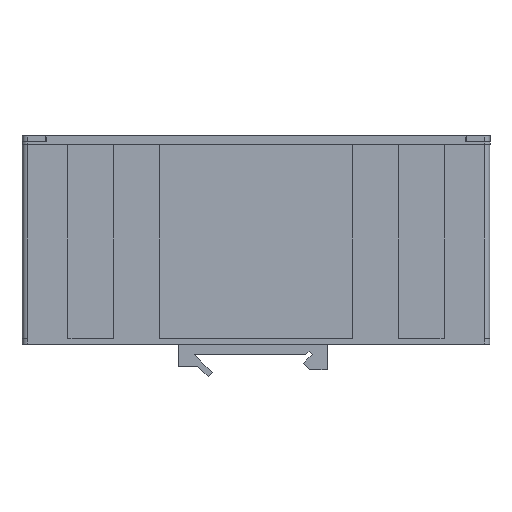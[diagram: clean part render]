
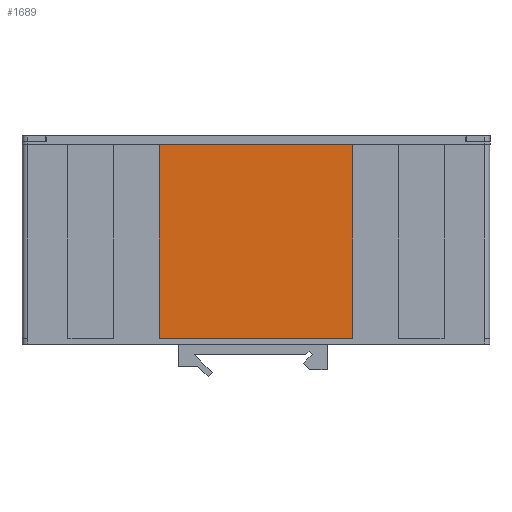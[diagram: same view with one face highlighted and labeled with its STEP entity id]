
A CAD part, left-side view. The second image highlights one B-rep face of the part: STEP entity #1689.
In plain terms, the highlighted planar face has unit normal (-1, 0, 0).
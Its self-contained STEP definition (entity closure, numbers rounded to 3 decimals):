
#179 = VERTEX_POINT ( 'NONE', #20266 ) ;
#1650 = EDGE_CURVE ( 'NONE', #179, #4428, #33885, .T. ) ;
#1689 = ADVANCED_FACE ( 'NONE', ( #5166 ), #18052, .F. ) ;
#1998 = VECTOR ( 'NONE', #20453, 1000. ) ;
#2071 = CARTESIAN_POINT ( 'NONE',  ( 0.2, 111., -65. ) ) ;
#2828 = LINE ( 'NONE', #37294, #29956 ) ;
#4428 = VERTEX_POINT ( 'NONE', #19973 ) ;
#5166 = FACE_OUTER_BOUND ( 'NONE', #21224, .T. ) ;
#8380 = ORIENTED_EDGE ( 'NONE', *, *, #29041, .F. ) ;
#9593 = DIRECTION ( 'NONE',  ( 0., 0., 1. ) ) ;
#11341 = ORIENTED_EDGE ( 'NONE', *, *, #23502, .T. ) ;
#14136 = CARTESIAN_POINT ( 'NONE',  ( 0.2, 46., -130. ) ) ;
#14720 = VECTOR ( 'NONE', #21845, 1000. ) ;
#14820 = AXIS2_PLACEMENT_3D ( 'NONE', #27516, #14999, #36542 ) ;
#14999 = DIRECTION ( 'NONE',  ( 1., 0., 0. ) ) ;
#17325 = VERTEX_POINT ( 'NONE', #33612 ) ;
#18052 = PLANE ( 'NONE',  #14820 ) ;
#19973 = CARTESIAN_POINT ( 'NONE',  ( 0.2, 111., -65. ) ) ;
#20266 = CARTESIAN_POINT ( 'NONE',  ( 0.2, 46., -65. ) ) ;
#20453 = DIRECTION ( 'NONE',  ( 0., 0., 1. ) ) ;
#21224 = EDGE_LOOP ( 'NONE', ( #40530, #11341, #8380, #27655 ) ) ;
#21845 = DIRECTION ( 'NONE',  ( 0., 1., 0. ) ) ;
#23502 = EDGE_CURVE ( 'NONE', #17325, #34814, #38224, .T. ) ;
#23809 = DIRECTION ( 'NONE',  ( 0., 1., 0. ) ) ;
#25254 = CARTESIAN_POINT ( 'NONE',  ( 0.2, 111., 0. ) ) ;
#25509 = CARTESIAN_POINT ( 'NONE',  ( 0.2, 111., 0. ) ) ;
#27516 = CARTESIAN_POINT ( 'NONE',  ( 0.2, 111., -130. ) ) ;
#27655 = ORIENTED_EDGE ( 'NONE', *, *, #1650, .F. ) ;
#29041 = EDGE_CURVE ( 'NONE', #4428, #34814, #2828, .T. ) ;
#29730 = LINE ( 'NONE', #14136, #1998 ) ;
#29956 = VECTOR ( 'NONE', #9593, 1000. ) ;
#31555 = EDGE_CURVE ( 'NONE', #179, #17325, #29730, .T. ) ;
#33612 = CARTESIAN_POINT ( 'NONE',  ( 0.2, 46., 0. ) ) ;
#33885 = LINE ( 'NONE', #2071, #36512 ) ;
#34814 = VERTEX_POINT ( 'NONE', #25254 ) ;
#36512 = VECTOR ( 'NONE', #23809, 1000. ) ;
#36542 = DIRECTION ( 'NONE',  ( 0., 1., 0. ) ) ;
#37294 = CARTESIAN_POINT ( 'NONE',  ( 0.2, 111., -130. ) ) ;
#38224 = LINE ( 'NONE', #25509, #14720 ) ;
#40530 = ORIENTED_EDGE ( 'NONE', *, *, #31555, .T. ) ;
